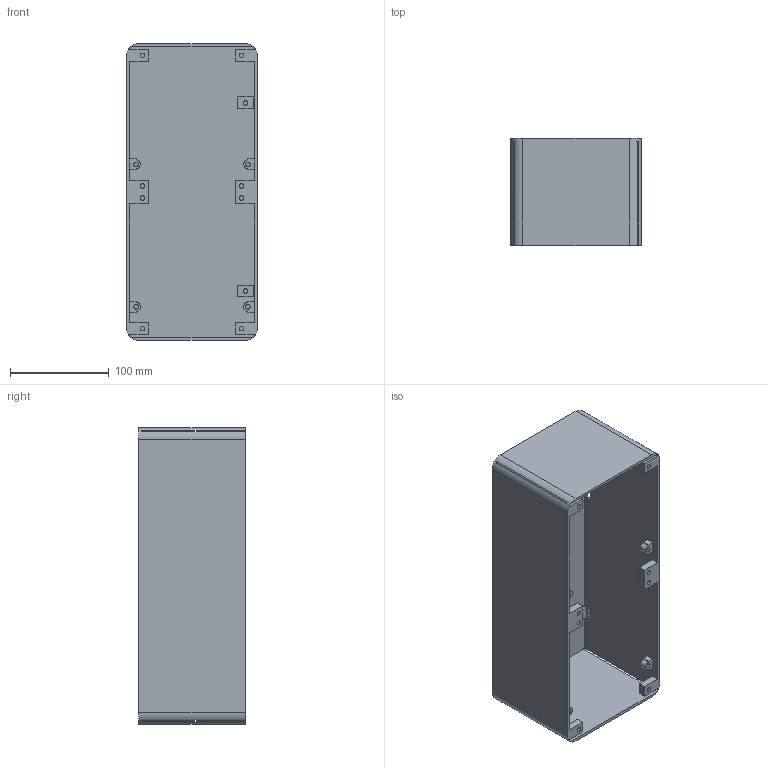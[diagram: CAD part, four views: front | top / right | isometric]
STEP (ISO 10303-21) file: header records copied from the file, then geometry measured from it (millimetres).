
FILE_DESCRIPTION(('FreeCAD Model'),'2;1');
FILE_NAME('Open CASCADE Shape Model','2026-10-14T02:28:59',('FreeCAD'),( 'FreeCAD'),'Open CASCADE STEP processor 7.8','FreeCAD','Unknown');
FILE_SCHEMA(('AUTOMOTIVE_DESIGN { 1 0 10303 214 1 1 1 1 }'));
Length unit declared in the file: millimetre
Products named in the file (1): Open CASCADE STEP translator 7.8 29
Bounding box: 132 x 108 x 300 mm (x, y, z)
Volume: 390551.1 mm3; surface area: 265026.3 mm2
Topology: 1 solids, 1 shells, 124 faces, 314 edges, 212 vertices
Faces by surface type: plane 98, cylinder 26
Full cylindrical faces by diameter (mm): 4.5 x14
Entity records: 3752 total; most frequent: CARTESIAN_POINT 651, DIRECTION 632, ORIENTED_EDGE 628, EDGE_CURVE 314, LINE 246, VECTOR 246, VERTEX_POINT 212, AXIS2_PLACEMENT_3D 193
